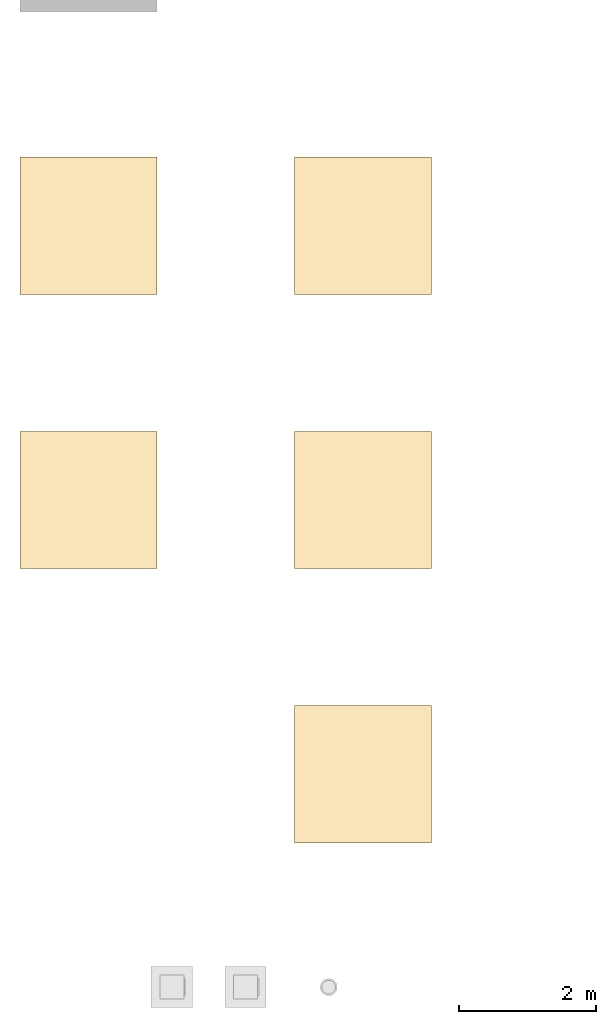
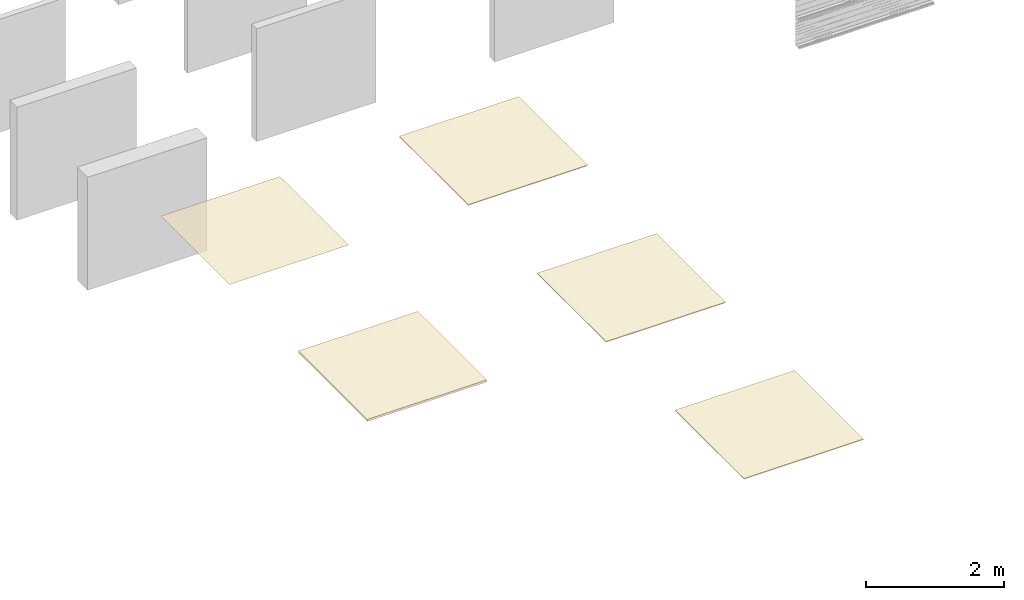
# One storey, part 10 of 13: 5 coverings.
"""IFC2X3 building model written with IfcOpenShell, lengths in millimetres."""

from ifc_helpers import new_model, entity, si_unit, converted_unit, derived_unit, direction, frame, frame_2d, origin, place, context, subcontext, project, spatial, rectangle, extrude, face_set, surface_model, material, layer, layer_set, layer_usage, element, save


model = new_model("IFC2X3")

# Units and contexts
model_context = context("Model", 3, precision=0.01, world=origin(), true_north=direction((6.12303176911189e-17, 1.0)))
body_context = subcontext(model_context, "Body", "Model", "MODEL_VIEW")
ifc_project = project(units=[si_unit("LENGTHUNIT", "METRE", prefix="MILLI"), si_unit("AREAUNIT", "SQUARE_METRE"), si_unit("VOLUMEUNIT", "CUBIC_METRE"), converted_unit("PLANEANGLEUNIT", "DEGREE", entity("IfcRatioMeasure", 0.0174532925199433), si_unit("PLANEANGLEUNIT", "RADIAN"), dimensions=[0, 0, 0, 0, 0, 0, 0]), si_unit("MASSUNIT", "GRAM", prefix="KILO"), si_unit("TIMEUNIT", "SECOND"), si_unit("FREQUENCYUNIT", "HERTZ"), si_unit("THERMODYNAMICTEMPERATUREUNIT", "KELVIN"), derived_unit("THERMALTRANSMITTANCEUNIT", [(si_unit("MASSUNIT", "GRAM", prefix="KILO"), 1), (si_unit("THERMODYNAMICTEMPERATUREUNIT", "KELVIN"), -1), (si_unit("TIMEUNIT", "SECOND"), -3)]), derived_unit("VOLUMETRICFLOWRATEUNIT", [(si_unit("LENGTHUNIT", "METRE"), 3), (si_unit("TIMEUNIT", "SECOND"), -1)]), si_unit("ELECTRICCURRENTUNIT", "AMPERE"), si_unit("ELECTRICVOLTAGEUNIT", "VOLT"), si_unit("POWERUNIT", "WATT")], contexts=[model_context])

# Site, building, storey
site_placement = place(None, origin())
site = spatial("IfcSite", under=ifc_project, at=site_placement, Name="Surface", CompositionType="ELEMENT")
building_placement = place(site_placement, origin())
building = spatial("IfcBuilding", under=site, at=building_placement, CompositionType="ELEMENT")
storey_placement = place(building_placement, origin())
storey = spatial("IfcBuildingStorey", under=building, at=storey_placement, Name="00_begane grond", CompositionType="ELEMENT", Elevation=0.0)

# Coverings
covering_1_placement = place(storey_placement, frame((0.0, -21266.4613273, 2600.0)))
element("IfcCovering", 1, at=covering_1_placement, inside=storey, Name="Basic Ceiling:45_CEI_plafond_MEP_host", ObjectType="Basic Ceiling:45_CEI_plafond_MEP_host", PredefinedType="CEILING", context=body_context, shape_type="SurfaceModel", body=[
    surface_model("IfcFaceBasedSurfaceModel", [(2000.0, 2000.0, 0.0), (0.0, 2000.0, 0.0), (0.0, 0.0, 0.0), (2000.0, 0.0, 0.0)], [face_set([[[0, 1, 2, 3]]])]),
])
ifc_material_1 = material(Name="<Unnamed>")
ifc_layer_1 = layer(ifc_material_1, 24.0)
ifc_material_2 = material(Name="45_gips_plafond_beplating_610mm")
ifc_layer_2 = layer(ifc_material_2, 12.5)
ifc_layer_set_1 = layer_set([ifc_layer_1, ifc_layer_2], Name="Compound Ceiling:45_CEI_plafond_gipsplaat_610mm_wit")
ifc_layer_usage_1 = layer_usage(ifc_layer_set_1, "AXIS3", "NEGATIVE", 0.0)
covering_2_placement = place(storey_placement, frame((0.0, -25266.4613273, 2600.0)))
element("IfcCovering", 2, at=covering_2_placement, inside=storey, material=ifc_layer_usage_1, Name="Compound Ceiling:45_CEI_plafond_gipsplaat_610mm_wit", ObjectType="Compound Ceiling:45_CEI_plafond_gipsplaat_610mm_wit", PredefinedType="CEILING", context=body_context, shape_type="SweptSolid", body=[
    extrude(rectangle(XDim=2000.0, YDim=2000.0, at=frame_2d((0.0, 2.1600499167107e-12), x_axis=(1.0, 0.0))), frame((1000.0, 1000.0, 0.0), z_axis=(0.0, 0.0, 1.0), x_axis=(-1.0, 0.0, 0.0)), (0.0, 0.0, 1.0), 36.4999999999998),
])
ifc_material_3 = material(Name="45_plafond_systeemplafond_600x600_wit")
ifc_layer_3 = layer(ifc_material_3, 15.0)
ifc_layer_set_2 = layer_set([ifc_layer_3], Name="Compound Ceiling:45_CEI_systeemplafond_600x600_wit")
ifc_layer_usage_2 = layer_usage(ifc_layer_set_2, "AXIS3", "NEGATIVE", 0.0)
covering_3_placement = place(storey_placement, frame((4000.0, -25266.4613273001, 2600.0)))
element("IfcCovering", 3, at=covering_3_placement, inside=storey, material=ifc_layer_usage_2, Name="Compound Ceiling:45_CEI_systeemplafond_600x600_wit", ObjectType="Compound Ceiling:45_CEI_systeemplafond_600x600_wit", PredefinedType="CEILING", context=body_context, shape_type="SweptSolid", body=[
    extrude(rectangle(XDim=2000.0, YDim=2000.0, at=frame_2d((5.11590769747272e-13, -2.1600499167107e-12), x_axis=(1.0, 0.0))), frame((1000.0, 1000.0, 0.0), z_axis=(0.0, 0.0, 1.0), x_axis=(-1.0, 0.0, 0.0)), (0.0, 0.0, 1.0), 14.9999999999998),
])
ifc_material_4 = material(Name="45_plafond_systeemplafond_600x600_donkerrood")
ifc_layer_4 = layer(ifc_material_4, 15.0)
ifc_layer_set_3 = layer_set([ifc_layer_4], Name="Compound Ceiling:45_CEI_systeemplafond_600x600_rood")
ifc_layer_usage_3 = layer_usage(ifc_layer_set_3, "AXIS3", "NEGATIVE", 0.0)
covering_4_placement = place(storey_placement, frame((4000.0, -21266.4613273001, 2600.0)))
element("IfcCovering", 4, at=covering_4_placement, inside=storey, material=ifc_layer_usage_3, Name="Compound Ceiling:45_CEI_systeemplafond_600x600_rood", ObjectType="Compound Ceiling:45_CEI_systeemplafond_600x600_rood", PredefinedType="CEILING", context=body_context, shape_type="SweptSolid", body=[
    extrude(rectangle(XDim=2000.0, YDim=2000.0, at=frame_2d((5.11590769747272e-13, -2.1600499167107e-12), x_axis=(1.0, 0.0))), frame((1000.0, 1000.0, 0.0), z_axis=(0.0, 0.0, 1.0), x_axis=(-1.0, 0.0, 0.0)), (0.0, 0.0, 1.0), 14.9999999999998),
])
ifc_material_5 = material(Name="45_plafond_systeemplafond_1200x600_wit")
ifc_layer_5 = layer(ifc_material_5, 15.0)
ifc_layer_set_4 = layer_set([ifc_layer_5], Name="Compound Ceiling:45_CEI_systeemplafond_1200x600_wit")
ifc_layer_usage_4 = layer_usage(ifc_layer_set_4, "AXIS3", "NEGATIVE", 0.0)
covering_5_placement = place(storey_placement, frame((4000.0, -29266.4613273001, 2600.0)))
element("IfcCovering", 5, at=covering_5_placement, inside=storey, material=ifc_layer_usage_4, Name="Compound Ceiling:45_CEI_systeemplafond_1200x600_wit", ObjectType="Compound Ceiling:45_CEI_systeemplafond_1200x600_wit", PredefinedType="CEILING", context=body_context, shape_type="SweptSolid", body=[
    extrude(rectangle(XDim=2000.0, YDim=2000.0, at=frame_2d((5.11590769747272e-13, -2.1600499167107e-12), x_axis=(1.0, 0.0))), frame((1000.0, 1000.0, 0.0), z_axis=(0.0, 0.0, 1.0), x_axis=(-1.0, 0.0, 0.0)), (0.0, 0.0, 1.0), 14.9999999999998),
])

save(model, "model.ifc")
